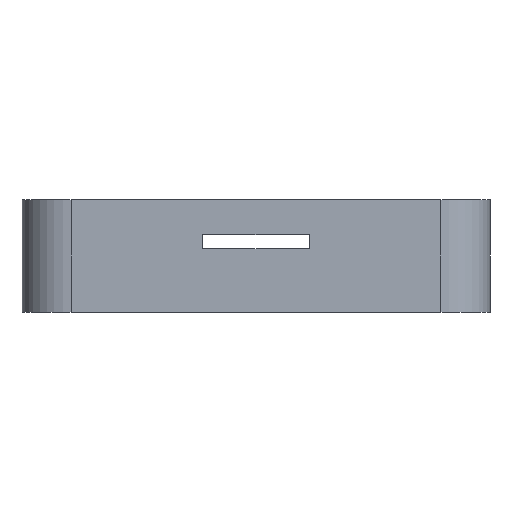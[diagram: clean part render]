
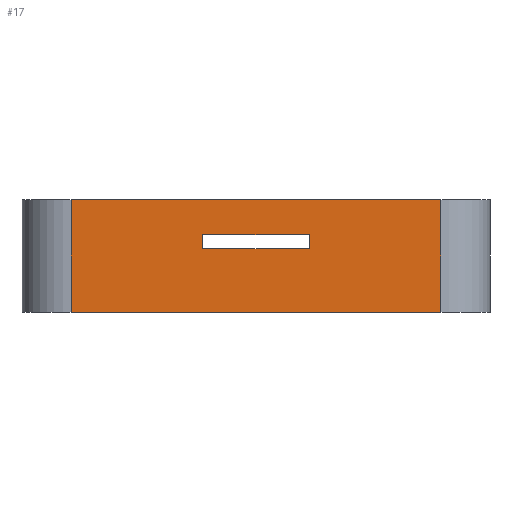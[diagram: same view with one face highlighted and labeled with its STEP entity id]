
A CAD part, left-side view. The second image highlights one B-rep face of the part: STEP entity #17.
In plain terms, the highlighted planar face has unit normal (-1, 0, 0).
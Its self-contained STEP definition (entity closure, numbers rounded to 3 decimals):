
#17 = ADVANCED_FACE('',(#18,#137),#32,.F.);
#18 = FACE_BOUND('',#19,.F.);
#19 = EDGE_LOOP('',(#20,#55,#83,#111));
#20 = ORIENTED_EDGE('',*,*,#21,.F.);
#21 = EDGE_CURVE('',#22,#24,#26,.T.);
#22 = VERTEX_POINT('',#23);
#23 = CARTESIAN_POINT('',(-25.65,-13.2,8.));
#24 = VERTEX_POINT('',#25);
#25 = CARTESIAN_POINT('',(-25.65,13.2,8.));
#26 = SURFACE_CURVE('',#27,(#31,#43),.PCURVE_S1.);
#27 = LINE('',#28,#29);
#28 = CARTESIAN_POINT('',(-25.65,-16.7,8.));
#29 = VECTOR('',#30,1.);
#30 = DIRECTION('',(0.,1.,0.));
#31 = PCURVE('',#32,#37);
#32 = PLANE('',#33);
#33 = AXIS2_PLACEMENT_3D('',#34,#35,#36);
#34 = CARTESIAN_POINT('',(-25.65,-16.7,0.));
#35 = DIRECTION('',(1.,0.,0.));
#36 = DIRECTION('',(0.,0.,1.));
#37 = DEFINITIONAL_REPRESENTATION('',(#38),#42);
#38 = LINE('',#39,#40);
#39 = CARTESIAN_POINT('',(8.,0.));
#40 = VECTOR('',#41,1.);
#41 = DIRECTION('',(0.,-1.));
#42 = ( GEOMETRIC_REPRESENTATION_CONTEXT(2) 
PARAMETRIC_REPRESENTATION_CONTEXT() REPRESENTATION_CONTEXT('2D SPACE',''
  ) );
#43 = PCURVE('',#44,#49);
#44 = PLANE('',#45);
#45 = AXIS2_PLACEMENT_3D('',#46,#47,#48);
#46 = CARTESIAN_POINT('',(-25.65,-16.7,8.));
#47 = DIRECTION('',(0.,0.,1.));
#48 = DIRECTION('',(1.,0.,0.));
#49 = DEFINITIONAL_REPRESENTATION('',(#50),#54);
#50 = LINE('',#51,#52);
#51 = CARTESIAN_POINT('',(0.,0.));
#52 = VECTOR('',#53,1.);
#53 = DIRECTION('',(0.,1.));
#54 = ( GEOMETRIC_REPRESENTATION_CONTEXT(2) 
PARAMETRIC_REPRESENTATION_CONTEXT() REPRESENTATION_CONTEXT('2D SPACE',''
  ) );
#55 = ORIENTED_EDGE('',*,*,#56,.F.);
#56 = EDGE_CURVE('',#57,#22,#59,.T.);
#57 = VERTEX_POINT('',#58);
#58 = CARTESIAN_POINT('',(-25.65,-13.2,0.));
#59 = SURFACE_CURVE('',#60,(#64,#71),.PCURVE_S1.);
#60 = LINE('',#61,#62);
#61 = CARTESIAN_POINT('',(-25.65,-13.2,0.));
#62 = VECTOR('',#63,1.);
#63 = DIRECTION('',(0.,0.,1.));
#64 = PCURVE('',#32,#65);
#65 = DEFINITIONAL_REPRESENTATION('',(#66),#70);
#66 = LINE('',#67,#68);
#67 = CARTESIAN_POINT('',(0.,-3.5));
#68 = VECTOR('',#69,1.);
#69 = DIRECTION('',(1.,0.));
#70 = ( GEOMETRIC_REPRESENTATION_CONTEXT(2) 
PARAMETRIC_REPRESENTATION_CONTEXT() REPRESENTATION_CONTEXT('2D SPACE',''
  ) );
#71 = PCURVE('',#72,#77);
#72 = CYLINDRICAL_SURFACE('',#73,3.5);
#73 = AXIS2_PLACEMENT_3D('',#74,#75,#76);
#74 = CARTESIAN_POINT('',(-22.15,-13.2,0.));
#75 = DIRECTION('',(0.,0.,1.));
#76 = DIRECTION('',(-1.,-0.,0.));
#77 = DEFINITIONAL_REPRESENTATION('',(#78),#82);
#78 = LINE('',#79,#80);
#79 = CARTESIAN_POINT('',(0.,0.));
#80 = VECTOR('',#81,1.);
#81 = DIRECTION('',(0.,1.));
#82 = ( GEOMETRIC_REPRESENTATION_CONTEXT(2) 
PARAMETRIC_REPRESENTATION_CONTEXT() REPRESENTATION_CONTEXT('2D SPACE',''
  ) );
#83 = ORIENTED_EDGE('',*,*,#84,.T.);
#84 = EDGE_CURVE('',#57,#85,#87,.T.);
#85 = VERTEX_POINT('',#86);
#86 = CARTESIAN_POINT('',(-25.65,13.2,0.));
#87 = SURFACE_CURVE('',#88,(#92,#99),.PCURVE_S1.);
#88 = LINE('',#89,#90);
#89 = CARTESIAN_POINT('',(-25.65,-16.7,0.));
#90 = VECTOR('',#91,1.);
#91 = DIRECTION('',(0.,1.,0.));
#92 = PCURVE('',#32,#93);
#93 = DEFINITIONAL_REPRESENTATION('',(#94),#98);
#94 = LINE('',#95,#96);
#95 = CARTESIAN_POINT('',(0.,0.));
#96 = VECTOR('',#97,1.);
#97 = DIRECTION('',(0.,-1.));
#98 = ( GEOMETRIC_REPRESENTATION_CONTEXT(2) 
PARAMETRIC_REPRESENTATION_CONTEXT() REPRESENTATION_CONTEXT('2D SPACE',''
  ) );
#99 = PCURVE('',#100,#105);
#100 = PLANE('',#101);
#101 = AXIS2_PLACEMENT_3D('',#102,#103,#104);
#102 = CARTESIAN_POINT('',(-25.65,-16.7,0.));
#103 = DIRECTION('',(0.,0.,1.));
#104 = DIRECTION('',(1.,0.,0.));
#105 = DEFINITIONAL_REPRESENTATION('',(#106),#110);
#106 = LINE('',#107,#108);
#107 = CARTESIAN_POINT('',(0.,0.));
#108 = VECTOR('',#109,1.);
#109 = DIRECTION('',(0.,1.));
#110 = ( GEOMETRIC_REPRESENTATION_CONTEXT(2) 
PARAMETRIC_REPRESENTATION_CONTEXT() REPRESENTATION_CONTEXT('2D SPACE',''
  ) );
#111 = ORIENTED_EDGE('',*,*,#112,.T.);
#112 = EDGE_CURVE('',#85,#24,#113,.T.);
#113 = SURFACE_CURVE('',#114,(#118,#125),.PCURVE_S1.);
#114 = LINE('',#115,#116);
#115 = CARTESIAN_POINT('',(-25.65,13.2,0.));
#116 = VECTOR('',#117,1.);
#117 = DIRECTION('',(0.,0.,1.));
#118 = PCURVE('',#32,#119);
#119 = DEFINITIONAL_REPRESENTATION('',(#120),#124);
#120 = LINE('',#121,#122);
#121 = CARTESIAN_POINT('',(0.,-29.9));
#122 = VECTOR('',#123,1.);
#123 = DIRECTION('',(1.,0.));
#124 = ( GEOMETRIC_REPRESENTATION_CONTEXT(2) 
PARAMETRIC_REPRESENTATION_CONTEXT() REPRESENTATION_CONTEXT('2D SPACE',''
  ) );
#125 = PCURVE('',#126,#131);
#126 = CYLINDRICAL_SURFACE('',#127,3.5);
#127 = AXIS2_PLACEMENT_3D('',#128,#129,#130);
#128 = CARTESIAN_POINT('',(-22.15,13.2,0.));
#129 = DIRECTION('',(0.,0.,1.));
#130 = DIRECTION('',(-1.,-0.,0.));
#131 = DEFINITIONAL_REPRESENTATION('',(#132),#136);
#132 = LINE('',#133,#134);
#133 = CARTESIAN_POINT('',(-0.,0.));
#134 = VECTOR('',#135,1.);
#135 = DIRECTION('',(-0.,1.));
#136 = ( GEOMETRIC_REPRESENTATION_CONTEXT(2) 
PARAMETRIC_REPRESENTATION_CONTEXT() REPRESENTATION_CONTEXT('2D SPACE',''
  ) );
#137 = FACE_BOUND('',#138,.F.);
#138 = EDGE_LOOP('',(#139,#167,#193,#219));
#139 = ORIENTED_EDGE('',*,*,#140,.T.);
#140 = EDGE_CURVE('',#141,#143,#145,.T.);
#141 = VERTEX_POINT('',#142);
#142 = CARTESIAN_POINT('',(-25.65,3.8,4.5));
#143 = VERTEX_POINT('',#144);
#144 = CARTESIAN_POINT('',(-25.65,-3.8,4.5));
#145 = SURFACE_CURVE('',#146,(#150,#156),.PCURVE_S1.);
#146 = LINE('',#147,#148);
#147 = CARTESIAN_POINT('',(-25.65,-10.25,4.5));
#148 = VECTOR('',#149,1.);
#149 = DIRECTION('',(0.,-1.,0.));
#150 = PCURVE('',#32,#151);
#151 = DEFINITIONAL_REPRESENTATION('',(#152),#155);
#152 = B_SPLINE_CURVE_WITH_KNOTS('',1,(#153,#154),.UNSPECIFIED.,.F.,.F.,
  (2,2),(-14.05,-6.45),.PIECEWISE_BEZIER_KNOTS.);
#153 = CARTESIAN_POINT('',(4.5,-20.5));
#154 = CARTESIAN_POINT('',(4.5,-12.9));
#155 = ( GEOMETRIC_REPRESENTATION_CONTEXT(2) 
PARAMETRIC_REPRESENTATION_CONTEXT() REPRESENTATION_CONTEXT('2D SPACE',''
  ) );
#156 = PCURVE('',#157,#162);
#157 = PLANE('',#158);
#158 = AXIS2_PLACEMENT_3D('',#159,#160,#161);
#159 = CARTESIAN_POINT('',(-25.85,-3.8,4.5));
#160 = DIRECTION('',(0.,0.,1.));
#161 = DIRECTION('',(1.,0.,0.));
#162 = DEFINITIONAL_REPRESENTATION('',(#163),#166);
#163 = B_SPLINE_CURVE_WITH_KNOTS('',1,(#164,#165),.UNSPECIFIED.,.F.,.F.,
  (2,2),(-14.05,-6.45),.PIECEWISE_BEZIER_KNOTS.);
#164 = CARTESIAN_POINT('',(0.2,7.6));
#165 = CARTESIAN_POINT('',(0.2,0.));
#166 = ( GEOMETRIC_REPRESENTATION_CONTEXT(2) 
PARAMETRIC_REPRESENTATION_CONTEXT() REPRESENTATION_CONTEXT('2D SPACE',''
  ) );
#167 = ORIENTED_EDGE('',*,*,#168,.T.);
#168 = EDGE_CURVE('',#143,#169,#171,.T.);
#169 = VERTEX_POINT('',#170);
#170 = CARTESIAN_POINT('',(-25.65,-3.8,5.52));
#171 = SURFACE_CURVE('',#172,(#176,#182),.PCURVE_S1.);
#172 = LINE('',#173,#174);
#173 = CARTESIAN_POINT('',(-25.65,-3.8,2.25));
#174 = VECTOR('',#175,1.);
#175 = DIRECTION('',(0.,0.,1.));
#176 = PCURVE('',#32,#177);
#177 = DEFINITIONAL_REPRESENTATION('',(#178),#181);
#178 = B_SPLINE_CURVE_WITH_KNOTS('',1,(#179,#180),.UNSPECIFIED.,.F.,.F.,
  (2,2),(2.25,3.27),.PIECEWISE_BEZIER_KNOTS.);
#179 = CARTESIAN_POINT('',(4.5,-12.9));
#180 = CARTESIAN_POINT('',(5.52,-12.9));
#181 = ( GEOMETRIC_REPRESENTATION_CONTEXT(2) 
PARAMETRIC_REPRESENTATION_CONTEXT() REPRESENTATION_CONTEXT('2D SPACE',''
  ) );
#182 = PCURVE('',#183,#188);
#183 = PLANE('',#184);
#184 = AXIS2_PLACEMENT_3D('',#185,#186,#187);
#185 = CARTESIAN_POINT('',(-25.85,-3.8,4.5));
#186 = DIRECTION('',(0.,1.,0.));
#187 = DIRECTION('',(0.,0.,1.));
#188 = DEFINITIONAL_REPRESENTATION('',(#189),#192);
#189 = B_SPLINE_CURVE_WITH_KNOTS('',1,(#190,#191),.UNSPECIFIED.,.F.,.F.,
  (2,2),(2.25,3.27),.PIECEWISE_BEZIER_KNOTS.);
#190 = CARTESIAN_POINT('',(0.,0.2));
#191 = CARTESIAN_POINT('',(1.02,0.2));
#192 = ( GEOMETRIC_REPRESENTATION_CONTEXT(2) 
PARAMETRIC_REPRESENTATION_CONTEXT() REPRESENTATION_CONTEXT('2D SPACE',''
  ) );
#193 = ORIENTED_EDGE('',*,*,#194,.F.);
#194 = EDGE_CURVE('',#195,#169,#197,.T.);
#195 = VERTEX_POINT('',#196);
#196 = CARTESIAN_POINT('',(-25.65,3.8,5.52));
#197 = SURFACE_CURVE('',#198,(#202,#208),.PCURVE_S1.);
#198 = LINE('',#199,#200);
#199 = CARTESIAN_POINT('',(-25.65,-10.25,5.52));
#200 = VECTOR('',#201,1.);
#201 = DIRECTION('',(0.,-1.,0.));
#202 = PCURVE('',#32,#203);
#203 = DEFINITIONAL_REPRESENTATION('',(#204),#207);
#204 = B_SPLINE_CURVE_WITH_KNOTS('',1,(#205,#206),.UNSPECIFIED.,.F.,.F.,
  (2,2),(-14.05,-6.45),.PIECEWISE_BEZIER_KNOTS.);
#205 = CARTESIAN_POINT('',(5.52,-20.5));
#206 = CARTESIAN_POINT('',(5.52,-12.9));
#207 = ( GEOMETRIC_REPRESENTATION_CONTEXT(2) 
PARAMETRIC_REPRESENTATION_CONTEXT() REPRESENTATION_CONTEXT('2D SPACE',''
  ) );
#208 = PCURVE('',#209,#214);
#209 = PLANE('',#210);
#210 = AXIS2_PLACEMENT_3D('',#211,#212,#213);
#211 = CARTESIAN_POINT('',(-25.85,-3.8,5.52));
#212 = DIRECTION('',(0.,0.,1.));
#213 = DIRECTION('',(1.,0.,0.));
#214 = DEFINITIONAL_REPRESENTATION('',(#215),#218);
#215 = B_SPLINE_CURVE_WITH_KNOTS('',1,(#216,#217),.UNSPECIFIED.,.F.,.F.,
  (2,2),(-14.05,-6.45),.PIECEWISE_BEZIER_KNOTS.);
#216 = CARTESIAN_POINT('',(0.2,7.6));
#217 = CARTESIAN_POINT('',(0.2,0.));
#218 = ( GEOMETRIC_REPRESENTATION_CONTEXT(2) 
PARAMETRIC_REPRESENTATION_CONTEXT() REPRESENTATION_CONTEXT('2D SPACE',''
  ) );
#219 = ORIENTED_EDGE('',*,*,#220,.F.);
#220 = EDGE_CURVE('',#141,#195,#221,.T.);
#221 = SURFACE_CURVE('',#222,(#226,#232),.PCURVE_S1.);
#222 = LINE('',#223,#224);
#223 = CARTESIAN_POINT('',(-25.65,3.8,2.25));
#224 = VECTOR('',#225,1.);
#225 = DIRECTION('',(0.,0.,1.));
#226 = PCURVE('',#32,#227);
#227 = DEFINITIONAL_REPRESENTATION('',(#228),#231);
#228 = B_SPLINE_CURVE_WITH_KNOTS('',1,(#229,#230),.UNSPECIFIED.,.F.,.F.,
  (2,2),(2.25,3.27),.PIECEWISE_BEZIER_KNOTS.);
#229 = CARTESIAN_POINT('',(4.5,-20.5));
#230 = CARTESIAN_POINT('',(5.52,-20.5));
#231 = ( GEOMETRIC_REPRESENTATION_CONTEXT(2) 
PARAMETRIC_REPRESENTATION_CONTEXT() REPRESENTATION_CONTEXT('2D SPACE',''
  ) );
#232 = PCURVE('',#233,#238);
#233 = PLANE('',#234);
#234 = AXIS2_PLACEMENT_3D('',#235,#236,#237);
#235 = CARTESIAN_POINT('',(-25.85,3.8,4.5));
#236 = DIRECTION('',(0.,1.,0.));
#237 = DIRECTION('',(0.,0.,1.));
#238 = DEFINITIONAL_REPRESENTATION('',(#239),#242);
#239 = B_SPLINE_CURVE_WITH_KNOTS('',1,(#240,#241),.UNSPECIFIED.,.F.,.F.,
  (2,2),(2.25,3.27),.PIECEWISE_BEZIER_KNOTS.);
#240 = CARTESIAN_POINT('',(0.,0.2));
#241 = CARTESIAN_POINT('',(1.02,0.2));
#242 = ( GEOMETRIC_REPRESENTATION_CONTEXT(2) 
PARAMETRIC_REPRESENTATION_CONTEXT() REPRESENTATION_CONTEXT('2D SPACE',''
  ) );
